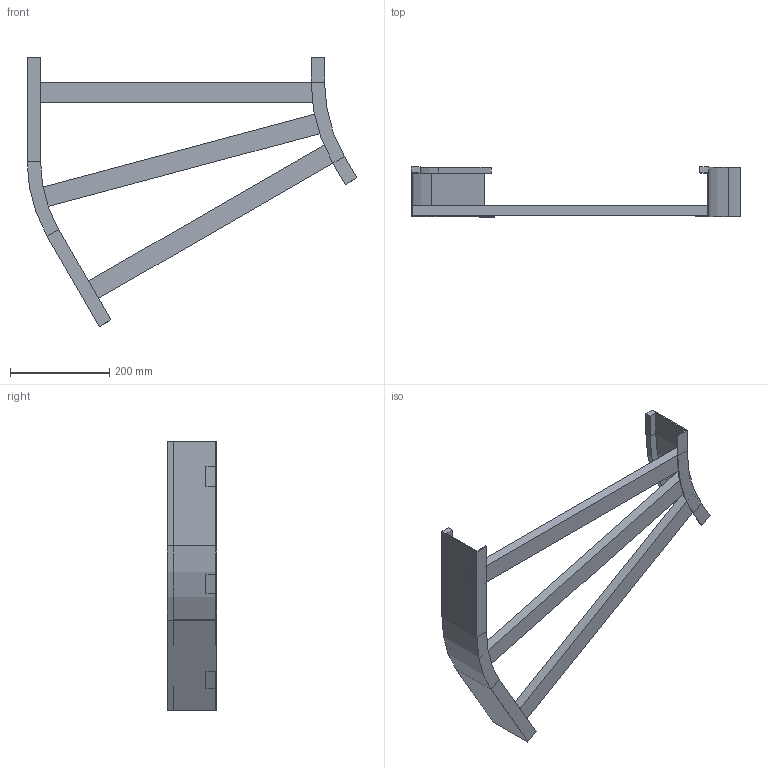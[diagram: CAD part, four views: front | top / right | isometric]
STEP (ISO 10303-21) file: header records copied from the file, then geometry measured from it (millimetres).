
FILE_DESCRIPTION (( 'STEP AP214' ), '1' );
FILE_NAME ('B2_12B3D600.step', '2025-02-21T15:07:55', ( '' ), ( '' ), 'SwSTEP 2.0', 'SolidWorks 2023', '' );
FILE_SCHEMA (( 'AUTOMOTIVE_DESIGN' ));
Length unit declared in the file: millimetre
Products named in the file (5): TRAVERSINO_L616; B2_LONGH.ESTERNO 30°_H100_R300+600; B2_12B3D600; B2_LONGH.INTERNO 30°_H100_R300; TRAVERSINO_600
Assembly tree (5 placements, depth 2):
  B2_12B3D600
    B2_LONGH.INTERNO 30°_H100_R300
    B2_LONGH.ESTERNO 30°_H100_R300+600
    TRAVERSINO_600  x2
    TRAVERSINO_L616
Bounding box: 665.19 x 100 x 543.3 mm (x, y, z)
Volume: 1833858.6 mm3; surface area: 464405.7 mm2
Topology: 5 solids, 5 shells, 70 faces, 148 edges, 88 vertices
Faces by surface type: plane 62, cylinder 8
Entity records: 1822 total; most frequent: DIRECTION 296, CARTESIAN_POINT 288, ORIENTED_EDGE 272, EDGE_CURVE 136, VECTOR 120, LINE 120, AXIS2_PLACEMENT_3D 88, VERTEX_POINT 80
